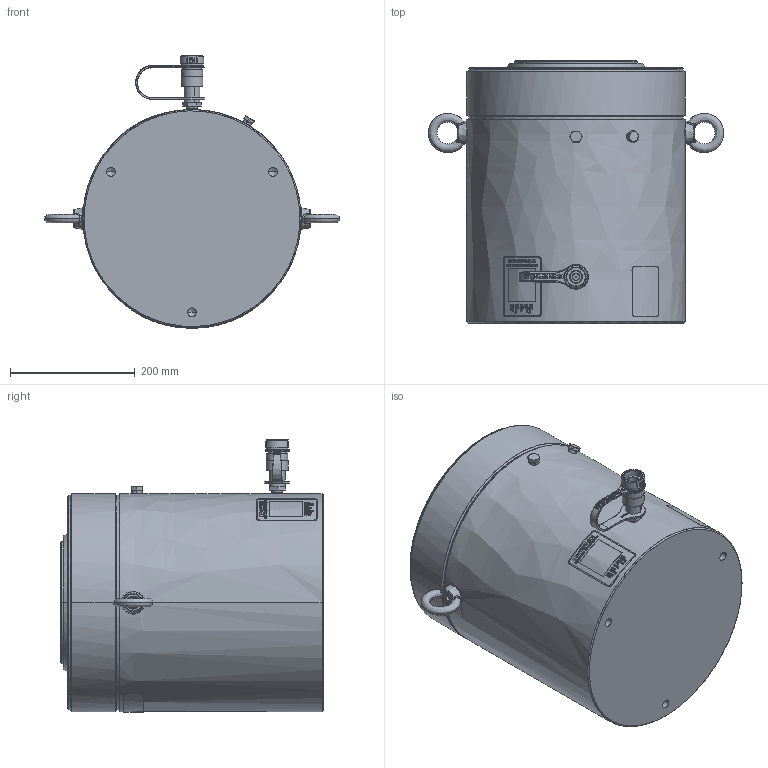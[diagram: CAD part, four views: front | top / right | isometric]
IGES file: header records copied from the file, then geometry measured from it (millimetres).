
Start section:  PTC IGES file: hcg4006.igs
Global section: file name: hcg4006.igs; native system: Creo Parametric by PTC Inc.; preprocessor: 2015290; author: Akhilesh.Subrahmanya; organization: Unknown; date: 20170720.091553; units: millimetre
Bounding box: 473.99 x 421 x 437.01 mm (x, y, z)
Surface area: 1233592.7 mm2 (no closed solid volume)
Topology: 0 solids, 0 shells, 666 faces, 5938 edges, 5923 vertices
Faces by surface type: revolution 409, bspline 252, extrusion 5
